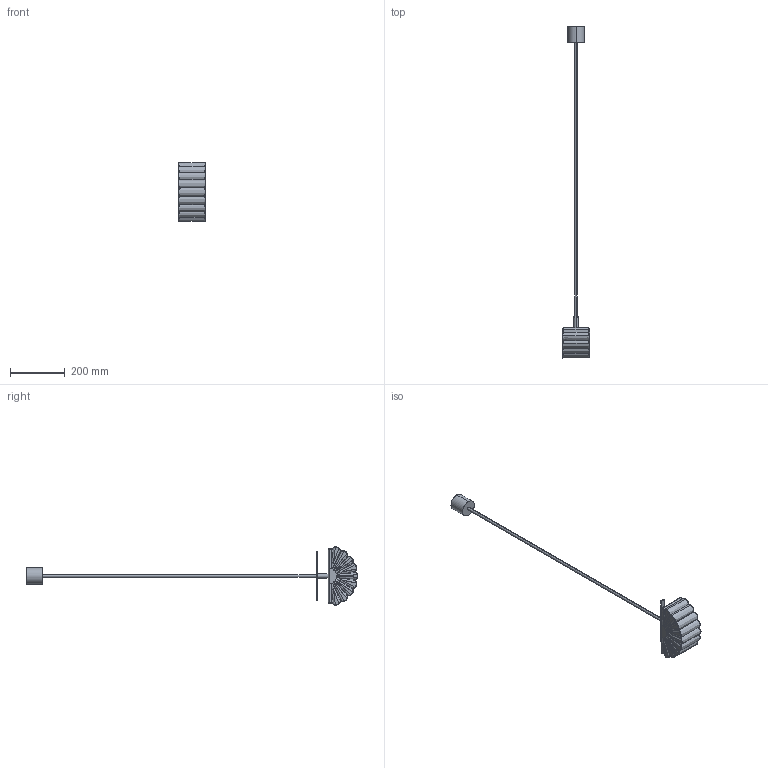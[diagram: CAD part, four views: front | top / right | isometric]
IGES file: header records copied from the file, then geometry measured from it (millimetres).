
Start section: SolidWorks IGES file using analytic representation for surfaces
Global section: file name: C:\Users\Agustin\Desktop\ARNOLD\2024 SEPTIEMBRE\2D\GINA\2D-3D C1334\GINA_C1334.IGS; native system: SolidWorks 2018; preprocessor: SolidWorks 2018; author: Agustin; date: 240918.094336; units: millimetre
Bounding box: 100 x 1209.17 x 212.24 mm (x, y, z)
Surface area: 153173 mm2 (no closed solid volume)
Topology: 0 solids, 0 shells, 267 faces, 2831 edges, 2822 vertices
Faces by surface type: bspline 204, revolution 63
